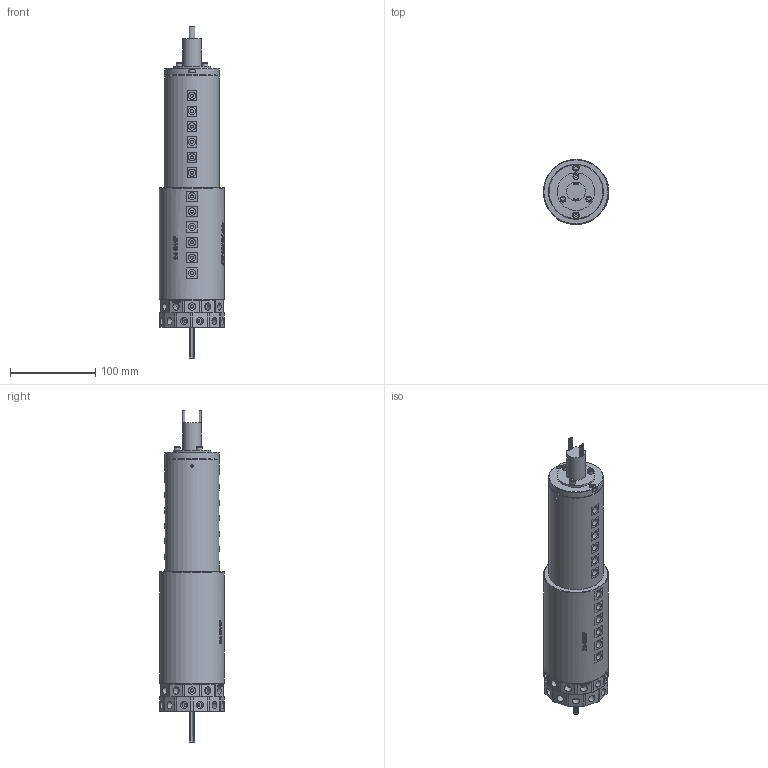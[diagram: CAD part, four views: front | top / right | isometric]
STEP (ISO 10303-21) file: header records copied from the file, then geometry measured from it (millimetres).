
FILE_DESCRIPTION(/* description */ (''),/* implementation_level */ '2;1');
FILE_NAME(/* name */ 'HQ2401-24M.stp',/* time_stamp */ '2025-09-23T12:01:01+08:00',/* author */ (''),/* organization */ (''),/* preprocessor_version */ 'ST-DEVELOPER v16.7',/* originating_system */ 'SIEMENS PLM Software NX 12.0',/* authorisation */ '');
FILE_SCHEMA (('AUTOMOTIVE_DESIGN { 1 0 10303 214 3 1 1 1 }'));
Products named in the file (1): Admi8A8072AE0vf5
Bounding box: 76.1 x 76 x 388.4 mm (x, y, z)
Volume: 1166929.3 mm3; surface area: 112451.6 mm2
Topology: 1 solids, 5 shells, 1435 faces, 3372 edges, 2247 vertices
Faces by surface type: plane 943, cylinder 358, extrusion 97, bspline 26, cone 6, torus 5
Full cylindrical faces by diameter (mm): 0.8 x54, 3.4 x8, 3.5 x24, 4 x51, 4.1 x24, 4.2 x24, 5.5 x3, 7 x5, 8 x1, 8.5 x48, 22 x2, 44 x1, 52 x1, 64 x2, 76 x1
Entity records: 49407 total; most frequent: CARTESIAN_POINT 18953, DIRECTION 5882, ORIENTED_EDGE 5866, EDGE_CURVE 2933, AXIS2_PLACEMENT_3D 2199, VERTEX_POINT 2100, EDGE_LOOP 2035, VECTOR 1484
